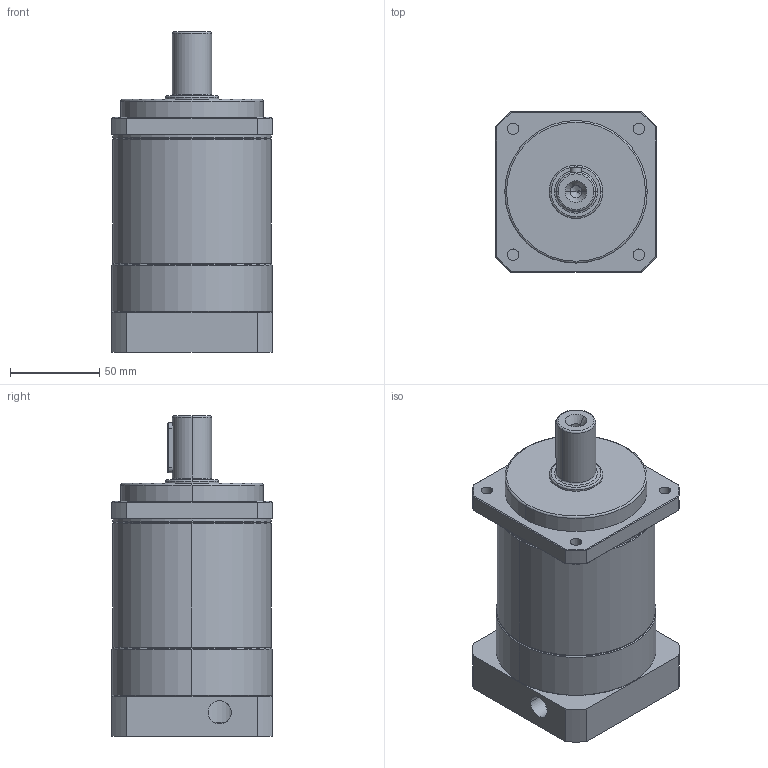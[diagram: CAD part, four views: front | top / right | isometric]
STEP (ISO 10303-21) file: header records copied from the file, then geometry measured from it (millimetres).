
FILE_DESCRIPTION (( 'STEP AP214' ), '1' );
FILE_NAME ('PBF90-L2-19×40-70-90M6 三维零件图.STEP', '2021-08-10T09:13:50', ( 'XJJ' ), ( '' ), 'SwSTEP 2.0', 'SolidWorks 2016', '' );
FILE_SCHEMA (( 'AUTOMOTIVE_DESIGN' ));
Length unit declared in the file: millimetre
Products named in the file (3): hexagon socket head cap screws gb_GB_FASTENER_SCREWS_HSHCS M6X20-N; PBF90-L2-19×40-70-90M6 三维外形图; PBF90-L2-19×40-70-90M6 三维零件图
Assembly tree (2 placements, depth 2):
  PBF90-L2-19×40-70-90M6 三维零件图
    PBF90-L2-19×40-70-90M6 三维外形图
    hexagon socket head cap screws gb_GB_FASTENER_SCREWS_HSHCS M6X20-N
Bounding box: 90 x 90 x 180 mm (x, y, z)
Volume: 864138 mm3; surface area: 80536 mm2
Topology: 2 solids, 2 shells, 170 faces, 394 edges, 233 vertices
Faces by surface type: cylinder 69, plane 54, cone 34, torus 13
Entity records: 5942 total; most frequent: CARTESIAN_POINT 1190, DIRECTION 888, ORIENTED_EDGE 764, EDGE_CURVE 382, AXIS2_PLACEMENT_3D 359, VERTEX_POINT 233, EDGE_LOOP 203, CIRCLE 184
